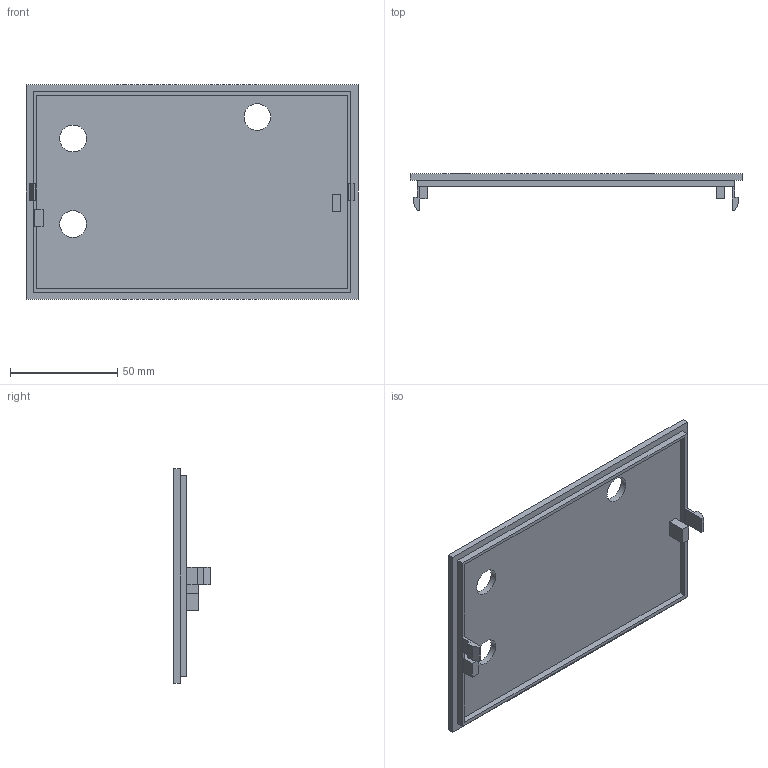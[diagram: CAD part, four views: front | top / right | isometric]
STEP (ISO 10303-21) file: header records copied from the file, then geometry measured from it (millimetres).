
FILE_DESCRIPTION(('Open CASCADE Model'),'2;1');
FILE_NAME('Open CASCADE Shape Model','2026-11-05T11:12:39',('Author'),( 'Open CASCADE'),'Open CASCADE STEP processor 7.8','Open CASCADE 7.8' ,'Unknown');
FILE_SCHEMA(('AUTOMOTIVE_DESIGN { 1 0 10303 214 1 1 1 1 }'));
Length unit declared in the file: millimetre
Products named in the file (1): Open CASCADE STEP translator 7.8 5
Bounding box: 155 x 17 x 100 mm (x, y, z)
Volume: 48550 mm3; surface area: 35841 mm2
Topology: 1 solids, 1 shells, 46 faces, 117 edges, 78 vertices
Faces by surface type: plane 43, cylinder 3
Full cylindrical faces by diameter (mm): 12.4 x1, 12.5 x2
Entity records: 2867 total; most frequent: CARTESIAN_POINT 519, DIRECTION 408, LINE 296, VECTOR 296, ORIENTED_EDGE 234, PCURVE 234, DEFINITIONAL_REPRESENTATION 234, EDGE_CURVE 117
